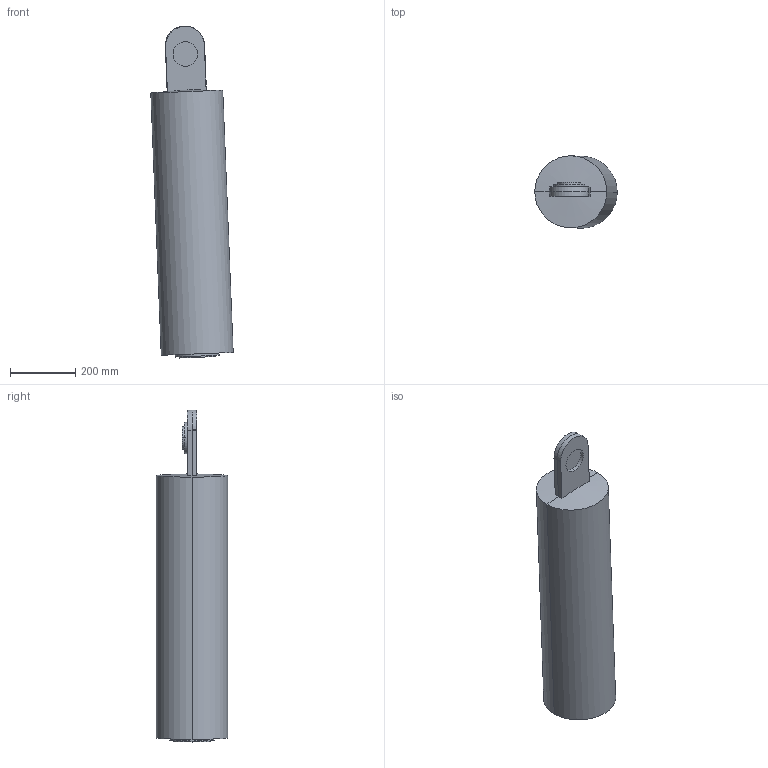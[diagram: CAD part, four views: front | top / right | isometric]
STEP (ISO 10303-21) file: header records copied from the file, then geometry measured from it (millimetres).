
FILE_DESCRIPTION (( 'STEP AP214' ), '1' );
FILE_NAME ('IRB760_445-318_Balance a_CAD_rev00.STEP', '2020-01-31T12:30:46', ( '' ), ( '' ), 'SwSTEP 2.0', 'SolidWorks 2018', '' );
FILE_SCHEMA (( 'AUTOMOTIVE_DESIGN' ));
Length unit declared in the file: millimetre
Products named in the file (2): IRB760_445-318_Balance a_CAD_rev00
Bounding box: 251.67 x 220 x 1014.46 mm (x, y, z)
Volume: 25078922.8 mm3; surface area: 945527.3 mm2
Topology: 1 solids, 1 shells, 32 faces, 66 edges, 42 vertices
Faces by surface type: cylinder 14, plane 13, cone 5
Entity records: 1290 total; most frequent: CARTESIAN_POINT 188, DIRECTION 161, ORIENTED_EDGE 132, AXIS2_PLACEMENT_3D 67, EDGE_CURVE 66, VERTEX_POINT 42, EDGE_LOOP 38, UNCERTAINTY_MEASURE_WITH_UNIT 35
